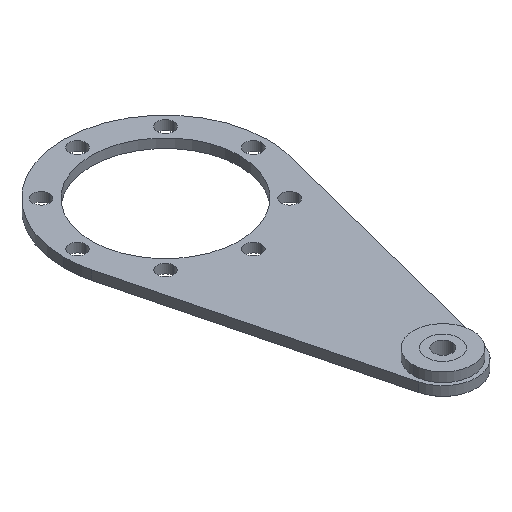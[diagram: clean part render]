
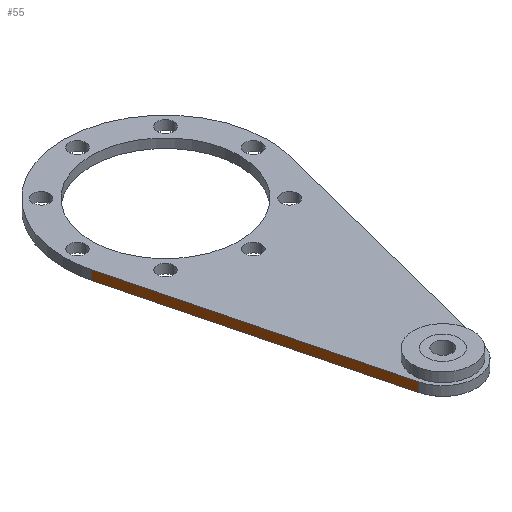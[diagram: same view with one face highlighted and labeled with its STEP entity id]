
A CAD part, isometric view. The second image highlights one B-rep face of the part: STEP entity #55.
In plain terms, the highlighted planar face has unit normal (-0.969, -0.247, 0).
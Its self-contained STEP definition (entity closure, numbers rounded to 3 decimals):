
#55 = ADVANCED_FACE ( 'NONE', ( #1364 ), #669, .F. ) ;
#131 = EDGE_CURVE ( 'NONE', #874, #875, #434, .T. ) ;
#141 = EDGE_CURVE ( 'NONE', #874, #877, #404, .T. ) ;
#158 = EDGE_CURVE ( 'NONE', #875, #881, #1066, .T. ) ;
#161 = EDGE_CURVE ( 'NONE', #877, #881, #1057, .T. ) ;
#304 = ORIENTED_EDGE ( 'NONE', *, *, #141, .F. ) ;
#306 = ORIENTED_EDGE ( 'NONE', *, *, #158, .T. ) ;
#307 = ORIENTED_EDGE ( 'NONE', *, *, #161, .F. ) ;
#309 = ORIENTED_EDGE ( 'NONE', *, *, #131, .T. ) ;
#402 = DIRECTION ( 'NONE',  ( 0.247, -0.969, 0. ) ) ;
#403 = CARTESIAN_POINT ( 'NONE',  ( -53.301, -13.567, 5. ) ) ;
#404 = LINE ( 'NONE', #403, #1178 ) ;
#432 = DIRECTION ( 'NONE',  ( 0., 0., -1. ) ) ;
#433 = CARTESIAN_POINT ( 'NONE',  ( -53.301, -13.567, 5. ) ) ;
#434 = LINE ( 'NONE', #433, #1190 ) ;
#666 = DIRECTION ( 'NONE',  ( -0.247, 0.969, 0. ) ) ;
#667 = DIRECTION ( 'NONE',  ( 0.969, 0.247, 0. ) ) ;
#668 = CARTESIAN_POINT ( 'NONE',  ( -53.301, -13.567, 5. ) ) ;
#669 = PLANE ( 'NONE',  #1339 ) ;
#803 = EDGE_LOOP ( 'NONE', ( #306, #307, #304, #309 ) ) ;
#874 = VERTEX_POINT ( 'NONE', #958 ) ;
#875 = VERTEX_POINT ( 'NONE', #957 ) ;
#877 = VERTEX_POINT ( 'NONE', #955 ) ;
#881 = VERTEX_POINT ( 'NONE', #951 ) ;
#951 = CARTESIAN_POINT ( 'NONE',  ( -17.444, -154.44, 0. ) ) ;
#955 = CARTESIAN_POINT ( 'NONE',  ( -17.444, -154.44, 5. ) ) ;
#957 = CARTESIAN_POINT ( 'NONE',  ( -53.301, -13.567, 0. ) ) ;
#958 = CARTESIAN_POINT ( 'NONE',  ( -53.301, -13.567, 5. ) ) ;
#1055 = DIRECTION ( 'NONE',  ( 0., 0., -1. ) ) ;
#1056 = CARTESIAN_POINT ( 'NONE',  ( -17.444, -154.44, 5. ) ) ;
#1057 = LINE ( 'NONE', #1056, #1154 ) ;
#1064 = DIRECTION ( 'NONE',  ( 0.247, -0.969, 0. ) ) ;
#1065 = CARTESIAN_POINT ( 'NONE',  ( -53.301, -13.567, 0. ) ) ;
#1066 = LINE ( 'NONE', #1065, #1157 ) ;
#1154 = VECTOR ( 'NONE', #1055, 1000. ) ;
#1157 = VECTOR ( 'NONE', #1064, 1000. ) ;
#1178 = VECTOR ( 'NONE', #402, 1000. ) ;
#1190 = VECTOR ( 'NONE', #432, 1000. ) ;
#1339 = AXIS2_PLACEMENT_3D ( 'NONE', #668, #667, #666 ) ;
#1364 = FACE_OUTER_BOUND ( 'NONE', #803, .T. ) ;
